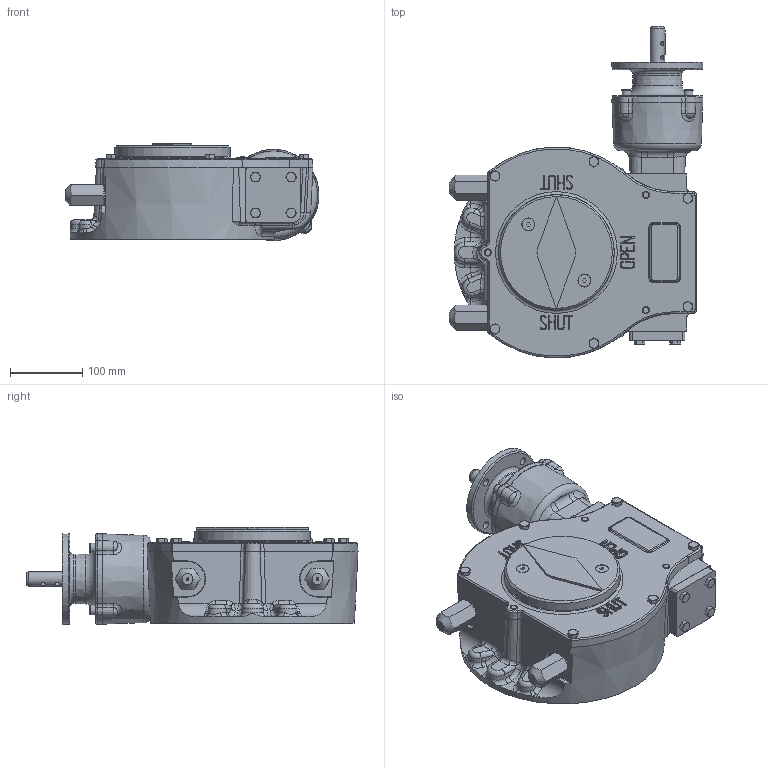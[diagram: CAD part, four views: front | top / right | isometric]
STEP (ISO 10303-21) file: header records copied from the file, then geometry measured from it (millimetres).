
FILE_DESCRIPTION( ( 'Unknown' ), '1' );
FILE_NAME( 'M:/Current Drawings/Internet datasheets/4 - STEP/E3000G-PR6 LH.stp', 'Unknown', ( 'Unknown' ), ( 'Unknown' ), 'PSStep 15.0.49', 'Unknown', ' ' );
FILE_SCHEMA( ( 'AUTOMOTIVE_DESIGN { 1 0 10303 214 1 1 1 1 }' ) );
Length unit declared in the file: millimetre
Products named in the file (1): AB3000A20
Bounding box: 351.88 x 460.16 x 134.63 mm (x, y, z)
Volume: 6302276.2 mm3; surface area: 769087.5 mm2
Topology: 1 solids, 50 shells, 2405 faces, 6132 edges, 3792 vertices
Faces by surface type: plane 680, cylinder 638, cone 435, bspline 314, torus 224, sphere 84, extrusion 30
Full cylindrical faces by diameter (mm): 6 x2, 6.647 x40, 8 x20, 8.5 x10, 9 x10, 10 x6, 10.5 x4, 13.27 x4, 14 x4, 17.294 x2, 19 x1, 20 x7, 23 x1, 25 x3, 26 x3, 28 x2, 29 x1, 30 x2, 35 x2, 70 x1, 102 x1, 104.5 x1, 110 x3, 110.25 x1, 125.95 x2, 130 x6, 135 x1, 146 x1, 151.6 x1, 160 x1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
Entity records: 135568 total; most frequent: CARTESIAN_POINT 63383, ORIENTED_EDGE 11166, DIRECTION 10524, EDGE_CURVE 5583, AXIS2_PLACEMENT_3D 4405, VERTEX_POINT 3652, EDGE_LOOP 2803, FACE_OUTER_BOUND 2599
